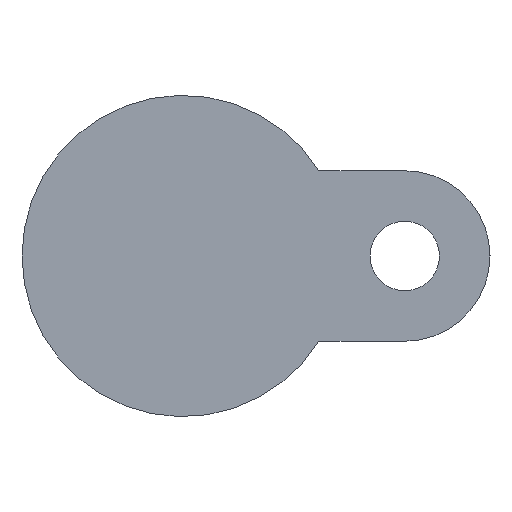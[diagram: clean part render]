
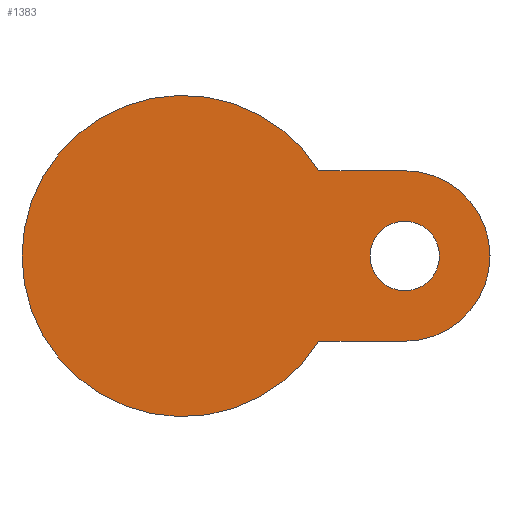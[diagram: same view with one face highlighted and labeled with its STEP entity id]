
A CAD part, front view. The second image highlights one B-rep face of the part: STEP entity #1383.
In plain terms, the highlighted planar face has unit normal (0, -1, 0).
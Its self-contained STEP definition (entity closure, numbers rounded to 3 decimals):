
#47 = CARTESIAN_POINT ( 'NONE',  ( 30.5, -23., 21.5 ) ) ;
#64 = DIRECTION ( 'NONE',  ( -1., 0., 0. ) ) ;
#66 = VERTEX_POINT ( 'NONE', #1254 ) ;
#78 = CARTESIAN_POINT ( 'NONE',  ( 40.5, -23., 0. ) ) ;
#135 = EDGE_CURVE ( 'NONE', #736, #66, #1097, .T. ) ;
#177 = AXIS2_PLACEMENT_3D ( 'NONE', #892, #874, #64 ) ;
#185 = VERTEX_POINT ( 'NONE', #772 ) ;
#187 = EDGE_LOOP ( 'NONE', ( #545, #917, #777, #1528 ) ) ;
#204 = ORIENTED_EDGE ( 'NONE', *, *, #1385, .T. ) ;
#277 = DIRECTION ( 'NONE',  ( 1., 0., 0. ) ) ;
#295 = DIRECTION ( 'NONE',  ( 1., 0., 0. ) ) ;
#317 = CARTESIAN_POINT ( 'NONE',  ( 56., -23., -21.5 ) ) ;
#323 = AXIS2_PLACEMENT_3D ( 'NONE', #78, #790, #424 ) ;
#412 = PLANE ( 'NONE',  #323 ) ;
#424 = DIRECTION ( 'NONE',  ( 1., 0., 0. ) ) ;
#458 = CARTESIAN_POINT ( 'NONE',  ( 56., -23., 0. ) ) ;
#545 = ORIENTED_EDGE ( 'NONE', *, *, #1195, .T. ) ;
#559 = CIRCLE ( 'NONE', #1423, 21.5 ) ;
#629 = AXIS2_PLACEMENT_3D ( 'NONE', #458, #911, #1026 ) ;
#649 = VERTEX_POINT ( 'NONE', #1275 ) ;
#656 = EDGE_LOOP ( 'NONE', ( #1015, #204 ) ) ;
#701 = CARTESIAN_POINT ( 'NONE',  ( 64.75, -23., 0. ) ) ;
#736 = VERTEX_POINT ( 'NONE', #317 ) ;
#749 = LINE ( 'NONE', #47, #1336 ) ;
#772 = CARTESIAN_POINT ( 'NONE',  ( 56., -23., 21.5 ) ) ;
#777 = ORIENTED_EDGE ( 'NONE', *, *, #1040, .F. ) ;
#790 = DIRECTION ( 'NONE',  ( 0., -1., 0. ) ) ;
#816 = AXIS2_PLACEMENT_3D ( 'NONE', #1186, #1291, #1436 ) ;
#872 = DIRECTION ( 'NONE',  ( 0., 1., 0. ) ) ;
#874 = DIRECTION ( 'NONE',  ( 0., 1., 0. ) ) ;
#892 = CARTESIAN_POINT ( 'NONE',  ( 56., -23., 0. ) ) ;
#907 = FACE_OUTER_BOUND ( 'NONE', #187, .T. ) ;
#911 = DIRECTION ( 'NONE',  ( 0., 1., 0. ) ) ;
#917 = ORIENTED_EDGE ( 'NONE', *, *, #135, .F. ) ;
#922 = CIRCLE ( 'NONE', #629, 8.75 ) ;
#932 = EDGE_CURVE ( 'NONE', #649, #185, #749, .T. ) ;
#1015 = ORIENTED_EDGE ( 'NONE', *, *, #1089, .T. ) ;
#1026 = DIRECTION ( 'NONE',  ( -1., 0., 0. ) ) ;
#1040 = EDGE_CURVE ( 'NONE', #185, #736, #559, .T. ) ;
#1089 = EDGE_CURVE ( 'NONE', #1371, #1308, #922, .T. ) ;
#1097 = LINE ( 'NONE', #1353, #1376 ) ;
#1132 = CARTESIAN_POINT ( 'NONE',  ( 47.25, -23., 0. ) ) ;
#1167 = CIRCLE ( 'NONE', #816, 40.5 ) ;
#1186 = CARTESIAN_POINT ( 'NONE',  ( 0., -23., 0. ) ) ;
#1195 = EDGE_CURVE ( 'NONE', #649, #66, #1167, .T. ) ;
#1237 = FACE_BOUND ( 'NONE', #656, .T. ) ;
#1254 = CARTESIAN_POINT ( 'NONE',  ( 34.322, -23., -21.5 ) ) ;
#1260 = CIRCLE ( 'NONE', #177, 8.75 ) ;
#1275 = CARTESIAN_POINT ( 'NONE',  ( 34.322, -23., 21.5 ) ) ;
#1291 = DIRECTION ( 'NONE',  ( 0., -1., 0. ) ) ;
#1308 = VERTEX_POINT ( 'NONE', #701 ) ;
#1336 = VECTOR ( 'NONE', #277, 1000. ) ;
#1353 = CARTESIAN_POINT ( 'NONE',  ( 30.5, -23., -21.5 ) ) ;
#1371 = VERTEX_POINT ( 'NONE', #1132 ) ;
#1376 = VECTOR ( 'NONE', #1469, 1000. ) ;
#1383 = ADVANCED_FACE ( 'NONE', ( #1237, #907 ), #412, .T. ) ;
#1385 = EDGE_CURVE ( 'NONE', #1308, #1371, #1260, .T. ) ;
#1423 = AXIS2_PLACEMENT_3D ( 'NONE', #1442, #872, #295 ) ;
#1436 = DIRECTION ( 'NONE',  ( 1., 0., 0. ) ) ;
#1442 = CARTESIAN_POINT ( 'NONE',  ( 56., -23., 0. ) ) ;
#1469 = DIRECTION ( 'NONE',  ( -1., 0., 0. ) ) ;
#1528 = ORIENTED_EDGE ( 'NONE', *, *, #932, .F. ) ;
